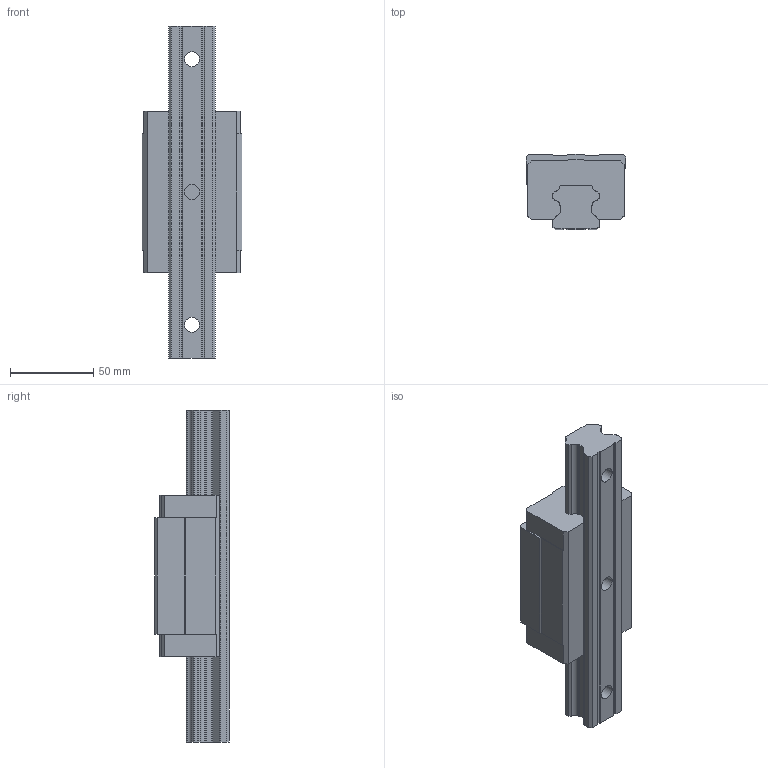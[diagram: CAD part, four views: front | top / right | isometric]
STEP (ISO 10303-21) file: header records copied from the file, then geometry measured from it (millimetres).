
FILE_DESCRIPTION (( 'STEP AP214' ), '1' );
FILE_NAME ('2.1019 Lineaarikelkka HGH30CA.STEP', '2025-09-19T06:26:51', ( '' ), ( '' ), 'SwSTEP 2.0', 'SolidWorks 2025', '' );
FILE_SCHEMA (( 'AUTOMOTIVE_DESIGN' ));
Length unit declared in the file: millimetre
Products named in the file (1): 2.1019 Lineaarikelkka HGH30CA
Bounding box: 60 x 45 x 200 mm (x, y, z)
Volume: 285141.5 mm3; surface area: 53185.9 mm2
Topology: 2 solids, 2 shells, 159 faces, 444 edges, 296 vertices
Faces by surface type: plane 97, cylinder 62
Entity records: 6915 total; most frequent: CARTESIAN_POINT 900, ORIENTED_EDGE 888, DIRECTION 888, EDGE_CURVE 444, LINE 320, VECTOR 320, VERTEX_POINT 296, AXIS2_PLACEMENT_3D 284
